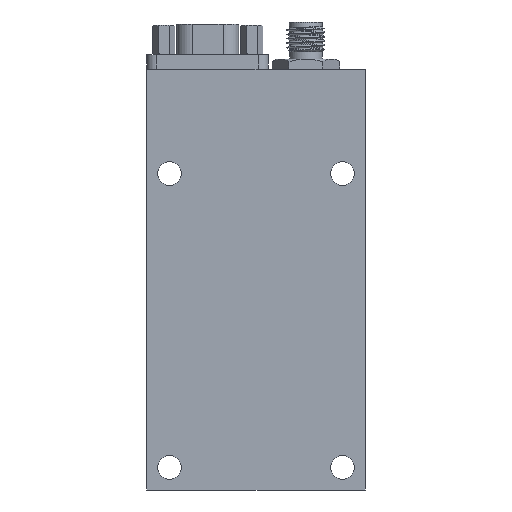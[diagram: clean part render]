
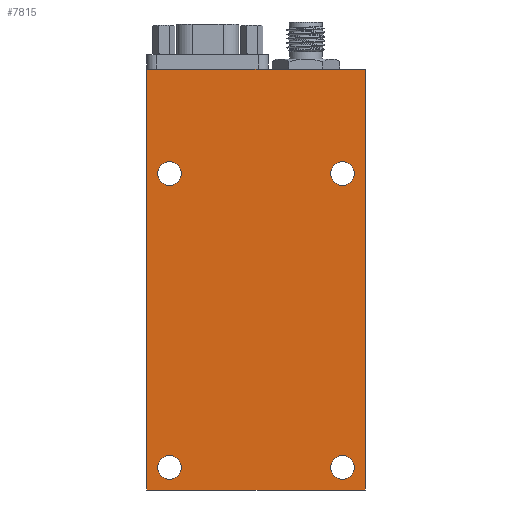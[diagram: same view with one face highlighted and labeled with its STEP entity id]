
A CAD part, front view. The second image highlights one B-rep face of the part: STEP entity #7815.
In plain terms, the highlighted planar face has unit normal (0, -1, 0).
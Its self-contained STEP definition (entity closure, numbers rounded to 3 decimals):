
#76 = AXIS2_PLACEMENT_3D ( 'NONE', #10996, #1165, #2785 ) ;
#260 = AXIS2_PLACEMENT_3D ( 'NONE', #14428, #2829, #6362 ) ;
#608 = DIRECTION ( 'NONE',  ( 0., 0., 1. ) ) ;
#705 = FACE_BOUND ( 'NONE', #11825, .T. ) ;
#991 = DIRECTION ( 'NONE',  ( 0., 0., -1. ) ) ;
#1165 = DIRECTION ( 'NONE',  ( 0., -1., 0. ) ) ;
#1200 = CARTESIAN_POINT ( 'NONE',  ( 31.877, 0., -62.954 ) ) ;
#1217 = FACE_BOUND ( 'NONE', #17507, .T. ) ;
#1511 = EDGE_CURVE ( 'NONE', #9122, #5552, #20100, .T. ) ;
#1746 = VERTEX_POINT ( 'NONE', #1200 ) ;
#2073 = EDGE_CURVE ( 'NONE', #2343, #9122, #16139, .T. ) ;
#2096 = DIRECTION ( 'NONE',  ( 1., 0., 0. ) ) ;
#2343 = VERTEX_POINT ( 'NONE', #13081 ) ;
#2363 = CIRCLE ( 'NONE', #13009, 1.943 ) ;
#2716 = PLANE ( 'NONE',  #76 ) ;
#2785 = DIRECTION ( 'NONE',  ( 0., 0., -1. ) ) ;
#2829 = DIRECTION ( 'NONE',  ( 0., 1., 0. ) ) ;
#3031 = EDGE_CURVE ( 'NONE', #19003, #2343, #19834, .T. ) ;
#3152 = EDGE_CURVE ( 'NONE', #14906, #14906, #8212, .T. ) ;
#3179 = ORIENTED_EDGE ( 'NONE', *, *, #3031, .F. ) ;
#3603 = CARTESIAN_POINT ( 'NONE',  ( 0., 0., -68.58 ) ) ;
#3824 = EDGE_CURVE ( 'NONE', #5552, #19003, #6419, .T. ) ;
#4149 = VECTOR ( 'NONE', #2096, 1000. ) ;
#5267 = CARTESIAN_POINT ( 'NONE',  ( 0., 0., 0. ) ) ;
#5515 = VECTOR ( 'NONE', #991, 1000. ) ;
#5552 = VERTEX_POINT ( 'NONE', #3603 ) ;
#5700 = CIRCLE ( 'NONE', #19482, 1.943 ) ;
#5919 = ORIENTED_EDGE ( 'NONE', *, *, #17480, .T. ) ;
#5998 = CARTESIAN_POINT ( 'NONE',  ( 35.56, 0., 0. ) ) ;
#6008 = FACE_BOUND ( 'NONE', #7142, .T. ) ;
#6362 = DIRECTION ( 'NONE',  ( 0., 0., 1. ) ) ;
#6419 = LINE ( 'NONE', #16115, #13002 ) ;
#6923 = CARTESIAN_POINT ( 'NONE',  ( 35.56, 0., -68.58 ) ) ;
#7142 = EDGE_LOOP ( 'NONE', ( #7502 ) ) ;
#7434 = ORIENTED_EDGE ( 'NONE', *, *, #3152, .T. ) ;
#7443 = DIRECTION ( 'NONE',  ( -1., 0., 0. ) ) ;
#7502 = ORIENTED_EDGE ( 'NONE', *, *, #17849, .T. ) ;
#7815 = ADVANCED_FACE ( 'NONE', ( #6008, #1217, #14614, #705, #18176 ), #2716, .T. ) ;
#8195 = DIRECTION ( 'NONE',  ( 0., 0., 1. ) ) ;
#8212 = CIRCLE ( 'NONE', #13576, 1.943 ) ;
#9122 = VERTEX_POINT ( 'NONE', #6923 ) ;
#9321 = ORIENTED_EDGE ( 'NONE', *, *, #20452, .T. ) ;
#10221 = DIRECTION ( 'NONE',  ( 0., 1., 0. ) ) ;
#10326 = ORIENTED_EDGE ( 'NONE', *, *, #1511, .F. ) ;
#10742 = DIRECTION ( 'NONE',  ( 0., 1., 0. ) ) ;
#10783 = CIRCLE ( 'NONE', #260, 1.943 ) ;
#10996 = CARTESIAN_POINT ( 'NONE',  ( 0., 0., -68.58 ) ) ;
#11825 = EDGE_LOOP ( 'NONE', ( #5919 ) ) ;
#12224 = DIRECTION ( 'NONE',  ( 0., 0., 1. ) ) ;
#12913 = VERTEX_POINT ( 'NONE', #20351 ) ;
#13002 = VECTOR ( 'NONE', #8195, 1000. ) ;
#13009 = AXIS2_PLACEMENT_3D ( 'NONE', #17079, #10742, #12224 ) ;
#13081 = CARTESIAN_POINT ( 'NONE',  ( 35.56, 0., 0. ) ) ;
#13576 = AXIS2_PLACEMENT_3D ( 'NONE', #13681, #10221, #608 ) ;
#13681 = CARTESIAN_POINT ( 'NONE',  ( 3.683, 0., -17.018 ) ) ;
#13979 = CARTESIAN_POINT ( 'NONE',  ( 3.683, 0., -64.897 ) ) ;
#14400 = EDGE_LOOP ( 'NONE', ( #14806, #10326, #18150, #3179 ) ) ;
#14428 = CARTESIAN_POINT ( 'NONE',  ( 31.877, 0., -17.018 ) ) ;
#14614 = FACE_BOUND ( 'NONE', #16854, .T. ) ;
#14806 = ORIENTED_EDGE ( 'NONE', *, *, #3824, .F. ) ;
#14906 = VERTEX_POINT ( 'NONE', #15125 ) ;
#15125 = CARTESIAN_POINT ( 'NONE',  ( 3.683, 0., -15.075 ) ) ;
#16115 = CARTESIAN_POINT ( 'NONE',  ( 0., 0., 0. ) ) ;
#16139 = LINE ( 'NONE', #5998, #5515 ) ;
#16470 = CARTESIAN_POINT ( 'NONE',  ( 0., 0., 0. ) ) ;
#16854 = EDGE_LOOP ( 'NONE', ( #7434 ) ) ;
#17079 = CARTESIAN_POINT ( 'NONE',  ( 31.877, 0., -64.897 ) ) ;
#17480 = EDGE_CURVE ( 'NONE', #12913, #12913, #10783, .T. ) ;
#17507 = EDGE_LOOP ( 'NONE', ( #9321 ) ) ;
#17849 = EDGE_CURVE ( 'NONE', #18231, #18231, #5700, .T. ) ;
#18150 = ORIENTED_EDGE ( 'NONE', *, *, #2073, .F. ) ;
#18176 = FACE_OUTER_BOUND ( 'NONE', #14400, .T. ) ;
#18231 = VERTEX_POINT ( 'NONE', #20564 ) ;
#18776 = DIRECTION ( 'NONE',  ( 0., 1., 0. ) ) ;
#18993 = DIRECTION ( 'NONE',  ( 0., 0., 1. ) ) ;
#19003 = VERTEX_POINT ( 'NONE', #16470 ) ;
#19077 = VECTOR ( 'NONE', #7443, 1000. ) ;
#19482 = AXIS2_PLACEMENT_3D ( 'NONE', #13979, #18776, #18993 ) ;
#19834 = LINE ( 'NONE', #5267, #4149 ) ;
#20100 = LINE ( 'NONE', #20127, #19077 ) ;
#20127 = CARTESIAN_POINT ( 'NONE',  ( 0., 0., -68.58 ) ) ;
#20351 = CARTESIAN_POINT ( 'NONE',  ( 31.877, 0., -15.075 ) ) ;
#20452 = EDGE_CURVE ( 'NONE', #1746, #1746, #2363, .T. ) ;
#20564 = CARTESIAN_POINT ( 'NONE',  ( 3.683, 0., -62.954 ) ) ;
